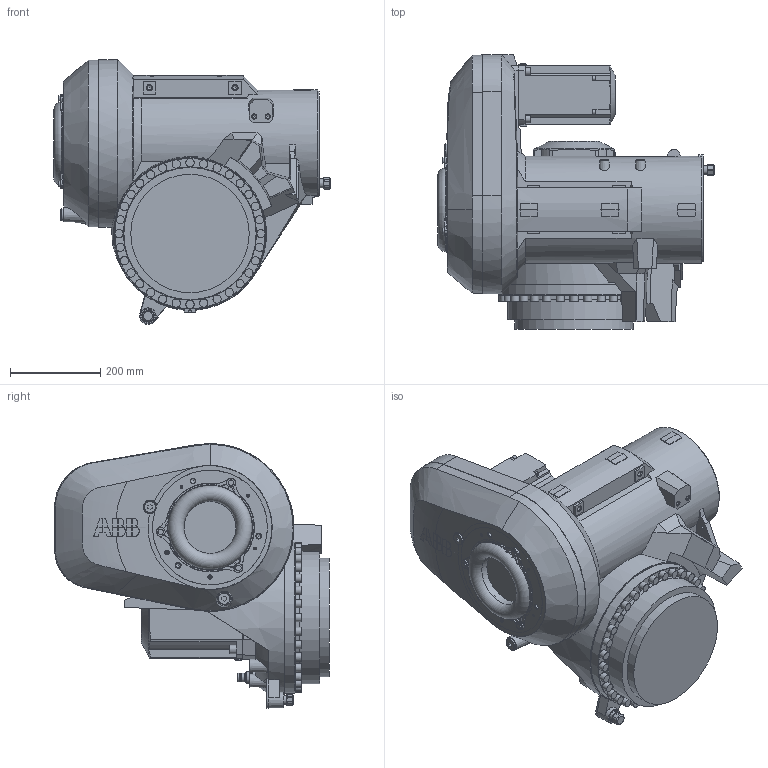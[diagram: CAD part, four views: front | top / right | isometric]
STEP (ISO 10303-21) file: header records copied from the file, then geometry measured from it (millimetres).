
FILE_DESCRIPTION (( 'STEP AP203' ), '1' );
FILE_NAME ('IRB6730S_All_OC_00_LINK03_CAD.step', '2025-12-19T13:42:26', ( '' ), ( '' ), 'SwSTEP 2.0', 'SolidWorks 2024', '' );
FILE_SCHEMA (( 'CONFIG_CONTROL_DESIGN' ));
Products named in the file (1): IRB6730S_All_OC_00_LINK03_CAD
Bounding box: 614.99 x 610 x 588.36 mm (x, y, z)
Volume: 55664058.1 mm3; surface area: 1850939.1 mm2
Topology: 1 solids, 5 shells, 1119 faces, 2997 edges, 1969 vertices
Faces by surface type: plane 614, cone 189, cylinder 187, bspline 96, torus 31, sphere 2
Full cylindrical faces by diameter (mm): 5 x11, 6.8 x2, 8.5 x4, 10 x9, 10.2 x6, 12 x3, 16.27 x4, 17.7 x1, 18.27 x32, 19 x5, 19.4 x1, 19.7 x2, 19.93 x1, 20 x3, 20.8 x3, 23 x1, 26.5 x1, 27 x3, 28 x1, 28.58 x1, 170 x1, 196 x1, 197.5 x1, 263 x1, 293.8 x1, 294 x1, 335 x1
Entity records: 44580 total; most frequent: CARTESIAN_POINT 19260, ORIENTED_EDGE 5370, DIRECTION 4747, EDGE_CURVE 2685, VERTEX_POINT 1869, AXIS2_PLACEMENT_3D 1788, EDGE_LOOP 1426, FACE_OUTER_BOUND 1228
